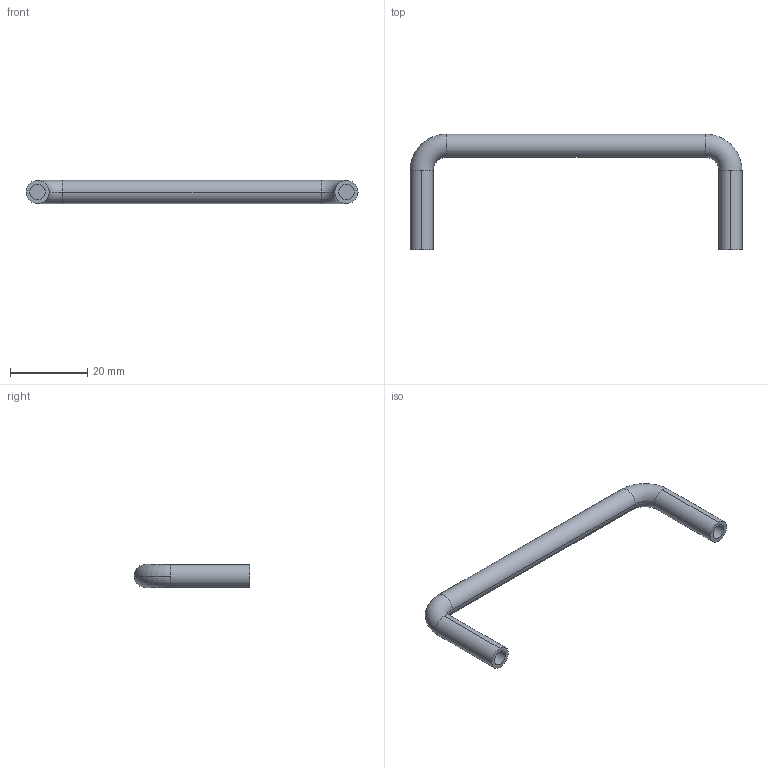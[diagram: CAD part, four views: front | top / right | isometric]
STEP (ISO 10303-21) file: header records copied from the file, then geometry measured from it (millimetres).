
FILE_DESCRIPTION (( 'STEP AP214' ), '1' );
FILE_NAME ('A84 KA-1251-5.STEP', '2012-02-22T01:57:57', ( '' ), ( '' ), 'SwSTEP 2.0', 'SolidWorks 2012', '' );
FILE_SCHEMA (( 'AUTOMOTIVE_DESIGN' ));
Length unit declared in the file: millimetre
Products named in the file (1): A84 KA-1251-5
Bounding box: 86 x 30 x 6 mm (x, y, z)
Volume: 3455.1 mm3; surface area: 2653.1 mm2
Topology: 1 solids, 1 shells, 18 faces, 38 edges, 24 vertices
Faces by surface type: cylinder 10, torus 4, plane 4
Entity records: 532 total; most frequent: DIRECTION 104, CARTESIAN_POINT 81, ORIENTED_EDGE 76, AXIS2_PLACEMENT_3D 47, EDGE_CURVE 38, CIRCLE 28, VERTEX_POINT 24, EDGE_LOOP 20
